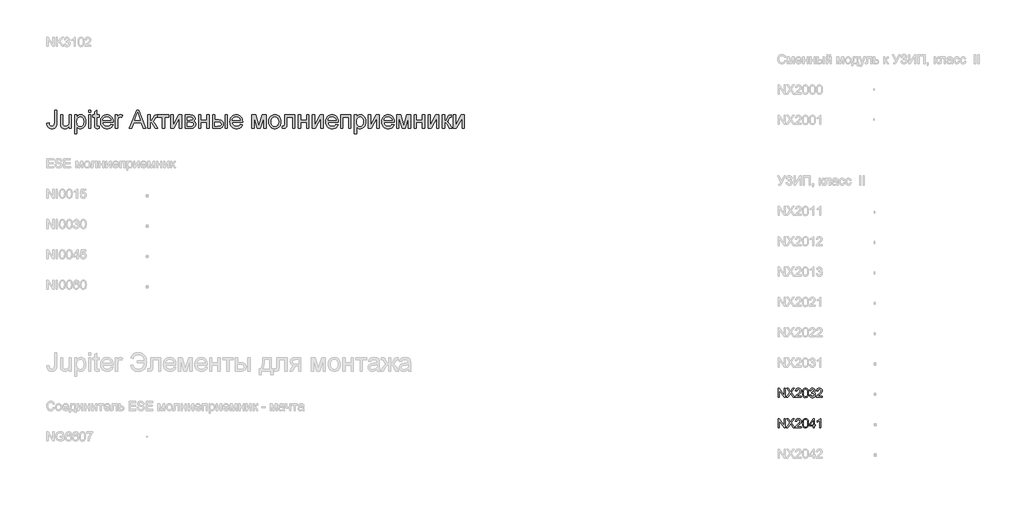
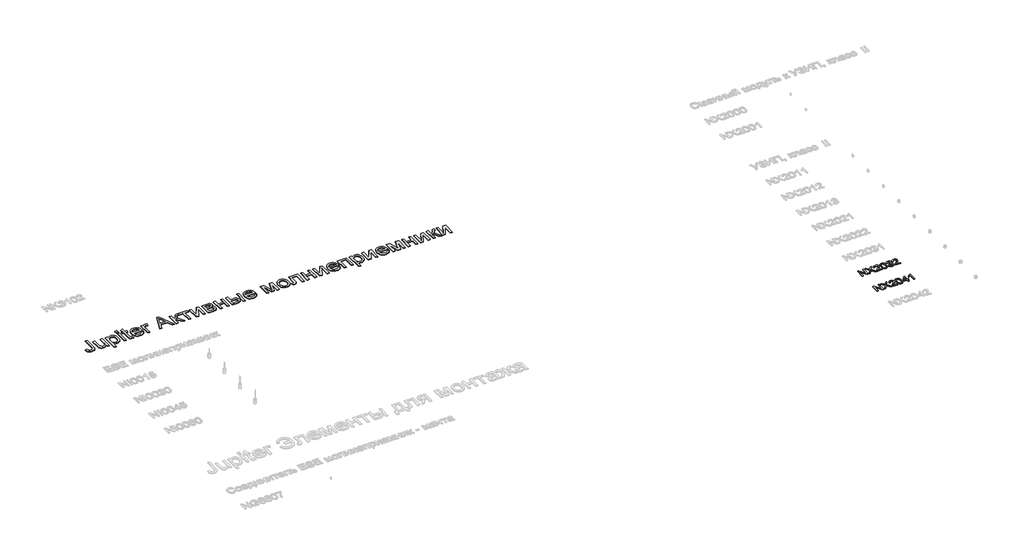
# One storey, part 25 of 124: 3 proxies.
"""IFC4 building model written with IfcOpenShell, lengths in millimetres."""

from ifc_helpers import new_model, si_unit, origin, origin_with_axes, place, context, project, spatial, polyline, outline, extrude, element, save

model = new_model("IFC4")

# Units and contexts
model_context = context("Model", 3, world=origin())
ifc_project = project(units=[si_unit("LENGTHUNIT", "METRE", prefix="MILLI")], contexts=[model_context])

# Site, building, storey
site = spatial("IfcSite", under=ifc_project)
building = spatial("IfcBuilding", under=site)
storey = spatial("IfcBuildingStorey", under=building, Name="Этаж 01", Elevation=0.0)

# Proxies
placement = place(None, origin())
element("IfcBuildingElementProxy", 1, Name="600 мм Arial", ObjectType="600 мм Arial", at=placement, inside=storey, context=model_context, shape_type="SweptSolid", body=[
    extrude(outline(polyline([(25395.1131782, -118079.6474361), (25470.4554108, -118069.9353514), (25473.1133582, -118099.8901429), (25478.2912973, -118124.7129805), (25485.989228, -118144.4038643), (25496.2071504, -118158.9627943), (25508.7887147, -118169.4566282), (25523.5775709, -118176.9522238), (25540.573719, -118181.4495812), (25559.7771592, -118182.9487003), (25587.6074321, -118179.5457919), (25611.3542149, -118169.3370665), (25629.6747383, -118153.2606233), (25641.2262329, -118132.2545614), (25647.3514681, -118101.8491145), (25649.3932132, -118057.5745164), (25649.3932132, -117646.135293), (25724.7354458, -117646.135293), (25724.7354458, -118056.2501412), (25720.1921032, -118123.333423), (25714.5129249, -118150.4601217), (25706.5620753, -118173.3101921), (25696.1418178, -118192.7941422), (25683.0544158, -118209.8224801), (25667.2998693, -118224.3952056), (25648.8781784, -118236.5123188), (25605.9647437, -118252.8462794), (25556.245492, -118258.290933), (25519.1170017, -118255.4812342), (25486.6054304, -118247.052138), (25458.7107781, -118233.0036443), (25435.4330448, -118213.3357532), (25417.1860979, -118188.1220409), (25404.3838044, -118157.436084), (25397.0261645, -118121.2778824), (25395.1131782, -118079.6474361)])), origin_with_axes(), (0.0, 0.0, 1.0), 20.0),
    extrude(outline(polyline([(26129.6999461, -118248.8731539), (26129.6999461, -118172.7951573), (26102.4398903, -118210.1995591), (26070.6916741, -118236.916989), (26034.4552976, -118252.947447), (25993.7307607, -118258.290933), (25957.0345317, -118254.5385366), (25922.8766884, -118243.2813476), (25894.218681, -118226.3587758), (25874.0219595, -118205.6102313), (25860.4287198, -118180.4103146), (25851.5811578, -118150.1336264), (25847.1665738, -118080.0888945), (25847.1665738, -117806.2375373), (25922.5088064, -117806.2375373), (25922.5088064, -118044.6250702), (25923.6492406, -118092.3025767), (25927.0705432, -118121.4388308), (25938.0518207, -118147.0618117), (25956.8689848, -118166.5411634), (25982.2712366, -118178.8468161), (26013.0077773, -118182.9487003), (26045.5101515, -118178.7548456), (26075.9155984, -118166.1732814), (26100.9867564, -118146.3628359), (26117.4862639, -118120.4823376), (26126.6465256, -118085.0369073), (26129.6999461, -118036.5316663), (26129.6999461, -117806.2375373), (26205.0421787, -117806.2375373), (26205.0421787, -118248.8731539), (26129.6999461, -118248.8731539)])), origin_with_axes(), (0.0, 0.0, 1.0), 20.0),
    extrude(outline(polyline([(26308.6377486, -118418.3931773), (26308.6377486, -117806.2375373), (26383.9799812, -117806.2375373), (26383.9799812, -117880.1082419), (26408.5544985, -117843.6695303), (26436.0720717, -117817.6418791), (26468.1513817, -117802.0252884), (26506.4111092, -117796.8197582), (26532.6870807, -117798.6407741), (26557.3627655, -117804.1038217), (26580.4381637, -117813.2089011), (26601.9132751, -117825.9560122), (26621.3190504, -117842.0140613), (26638.1864399, -117861.0519546), (26652.5154436, -117883.069692), (26664.3060615, -117908.0672736), (26680.0881991, -117963.5806666), (26685.3489116, -118024.1708312), (26679.4076174, -118088.6053627), (26671.9809996, -118118.2704471), (26661.5837348, -118146.2340772), (26648.358377, -118171.7650877), (26632.4474807, -118194.132313), (26613.8510459, -118213.3357532), (26592.5690725, -118229.3754081), (26569.6454256, -118242.0259503), (26546.1239706, -118251.0620518), (26522.0047073, -118256.4837127), (26497.2876357, -118258.290933), (26462.6515459, -118253.4532847), (26431.7310642, -118238.94034), (26405.2619546, -118217.0329672), (26383.9799812, -118190.0120347), (26383.9799812, -118418.3931773), (26308.6377486, -118418.3931773)]), holes=[polyline([(26383.9799812, -118031.0870127), (26386.0171277, -118067.3969657), (26392.1285674, -118098.6301471), (26402.3143001, -118124.7865569), (26416.574326, -118145.8661952), (26433.7406196, -118162.0897912), (26452.6451556, -118173.6780741), (26473.287934, -118180.6310438), (26495.6689549, -118182.9487003), (26518.3718726, -118180.5482703), (26539.3917301, -118173.3469803), (26558.7285274, -118161.3448302), (26576.3822647, -118144.5418201), (26591.092946, -118122.6988266), (26601.6005754, -118095.5767265), (26607.9051531, -118063.1755198), (26610.006679, -118025.4952064), (26607.9557369, -117989.4979532), (26601.8029105, -117958.3199541), (26591.5481999, -117931.9612091), (26577.1916051, -117910.4217183), (26559.9839247, -117893.6830875), (26541.1759577, -117881.7269227), (26520.767704, -117874.5532238), (26498.7591637, -117872.1619908), (26476.8196012, -117874.7049751), (26456.1768227, -117882.333928), (26436.8308283, -117895.0488494), (26418.7816179, -117912.8497395), (26403.5559019, -117935.4974748), (26392.6803904, -117962.7529321), (26386.1550835, -117994.6161114), (26383.9799812, -118031.0870127)])]), origin_with_axes(), (0.0, 0.0, 1.0), 20.0),
    extrude(outline(polyline([(26770.1089233, -117721.4775256), (26770.1089233, -117646.135293), (26845.4511559, -117646.135293), (26845.4511559, -117721.4775256), (26770.1089233, -117721.4775256)])), origin_with_axes(), (0.0, 0.0, 1.0), 20.0),
    extrude(outline(polyline([(26770.1089233, -118248.8731539), (26770.1089233, -117806.2375373), (26845.4511559, -117806.2375373), (26845.4511559, -118248.8731539), (26770.1089233, -118248.8731539)])), origin_with_axes(), (0.0, 0.0, 1.0), 20.0),
    extrude(outline(polyline([(27118.5667492, -118186.0389091), (27127.9845282, -118251.0804459), (27071.6250066, -118258.290933), (27035.4622064, -118255.163936), (27008.4964562, -118245.7829451), (26989.4401689, -118231.3251827), (26977.0057574, -118212.9678712), (26970.1631523, -118181.4403842), (26967.8822839, -118127.4720955), (26967.8822839, -117881.5797699), (26911.3756095, -117881.5797699), (26911.3756095, -117806.2375373), (26967.8822839, -117806.2375373), (26967.8822839, -117698.6688419), (27043.2245165, -117654.3758497), (27043.2245165, -117806.2375373), (27118.5667492, -117806.2375373), (27118.5667492, -117881.5797699), (27043.2245165, -117881.5797699), (27043.2245165, -118125.2648035), (27047.1976421, -118164.1131422), (27060.0735119, -118177.8719288), (27070.9444249, -118181.6795075), (27085.7516752, -118182.9487003), (27118.5667492, -118186.0389091)])), origin_with_axes(), (0.0, 0.0, 1.0), 20.0),
    extrude(outline(polyline([(27503.8127745, -118117.0242468), (27577.6834791, -118126.4420259), (27566.3573122, -118156.0289354), (27551.0672168, -118182.1025718), (27531.8131929, -118204.6629351), (27508.5952404, -118223.7100254), (27481.6524828, -118238.8391725), (27451.2240433, -118249.6457061), (27417.3099219, -118256.1296262), (27379.9101185, -118258.290933), (27333.161514, -118254.5615292), (27291.5080751, -118243.3733181), (27254.9498018, -118224.7262994), (27223.4866942, -118198.6204733), (27198.18561, -118165.7824068), (27180.113407, -118126.9386666), (27169.2700851, -118082.0892528), (27165.6556445, -118031.2341655), (27169.3068733, -117978.6546314), (27180.2605598, -117932.310697), (27198.5167038, -117892.2023625), (27224.0753054, -117858.3296278), (27255.4556396, -117831.4190599), (27291.1769813, -117812.1972256), (27331.2393306, -117800.6641251), (27375.6426874, -117796.8197582), (27418.615903, -117800.654928), (27457.4780372, -117812.1604374), (27492.2290902, -117831.3362864), (27522.8690619, -117858.182475), (27547.880439, -117891.9816333), (27565.7457084, -117932.0163914), (27576.46487, -117978.2867494), (27580.0379239, -118030.7927071), (27579.5964655, -118051.0997933), (27240.9978772, -118051.0997933), (27245.3618773, -118081.1649493), (27254.0392939, -118107.4961031), (27267.0301268, -118130.0932547), (27284.3343762, -118148.956404), (27304.9955487, -118163.8280337), (27328.0571513, -118174.4506263), (27353.5191839, -118180.8241818), (27381.3816465, -118182.9487003), (27421.480784, -118179.012363), (27455.2523511, -118167.203351), (27482.696348, -118146.7859002), (27503.8127745, -118117.0242468)]), holes=[polyline([(27240.9978772, -117975.7575607), (27504.6956913, -117975.7575607), (27494.50536, -117935.9527288), (27485.7405715, -117920.2993499), (27474.5293677, -117907.4786624), (27453.9831583, -117892.0276186), (27430.6042575, -117880.9911587), (27404.3926653, -117874.3692828), (27375.3483818, -117872.1619908), (27348.8562796, -117873.9232259), (27324.5622724, -117879.206931), (27302.46636, -117888.0131063), (27282.5685426, -117900.3417517), (27265.8712986, -117915.62265), (27253.3771063, -117933.2855843), (27245.0859658, -117953.3305545), (27240.9978772, -117975.7575607)])]), origin_with_axes(), (0.0, 0.0, 1.0), 20.0),
    extrude(outline(polyline([(27655.3801565, -118248.8731539), (27655.3801565, -117806.2375373), (27721.3046101, -117806.2375373), (27721.3046101, -117871.7205324), (27745.6583981, -117833.7551105), (27768.0991998, -117811.3878852), (27790.6135779, -117800.46179), (27815.1880952, -117796.8197582), (27852.7120587, -117802.6322937), (27890.8246334, -117820.0699003), (27865.661505, -117887.6130346), (27839.1740013, -117876.0247518), (27812.6864977, -117872.1619908), (27790.1905137, -117875.877599), (27770.0857626, -117887.0244234), (27753.8437725, -117904.7563356), (27742.9360714, -117928.2272069), (27733.7758097, -117970.3129071), (27730.7223891, -118016.2245801), (27730.7223891, -118248.8731539), (27655.3801565, -118248.8731539)])), origin_with_axes(), (0.0, 0.0, 1.0), 20.0),
    extrude(outline(polyline([(28112.5839001, -118248.8731539), (28353.178725, -117646.135293), (28417.3373449, -117646.135293), (28657.9321698, -118248.8731539), (28578.322506, -118248.8731539), (28509.3078437, -118060.5175724), (28261.0610734, -118060.5175724), (28192.1935639, -118248.8731539), (28112.5839001, -118248.8731539)]), holes=[polyline([(28288.7257994, -117985.1753397), (28481.7902705, -117985.1753397), (28427.490888, -117836.9924721), (28385.258035, -117721.4775256), (28347.7340714, -117824.0430259), (28288.7257994, -117985.1753397)])]), origin_with_axes(), (0.0, 0.0, 1.0), 20.0),
    extrude(outline(polyline([(28729.0069712, -117806.2375373), (28804.3492039, -117806.2375373), (28804.3492039, -117994.5931188), (28834.9937741, -117991.2086045), (28854.8226136, -117981.0550614), (28872.3705848, -117954.5675577), (28896.1725499, -117902.1811616), (28915.3575959, -117859.3413033), (28930.5327282, -117834.1229925), (28944.696185, -117820.3826), (28960.8462046, -117811.9764964), (28983.1950358, -117807.6722771), (29015.9549275, -117806.2375373), (29030.3759017, -117806.2375373), (29030.3759017, -117882.0212283), (29010.0688156, -117881.5797699), (28986.5243679, -117883.5663327), (28973.280616, -117889.526021), (28962.5384618, -117906.117499), (28947.3817236, -117939.1165139), (28931.4708273, -117972.1707112), (28916.9946708, -117992.7537088), (28899.4650937, -118006.4941014), (28874.3939357, -118019.0204833), (28898.2694772, -118029.6246818), (28921.9242895, -118048.3406783), (28945.3583726, -118075.1684728), (28968.5717265, -118110.1080653), (29049.2114598, -118248.8731539), (28963.5685314, -118248.8731539), (28884.5474788, -118113.0511213), (28863.2103231, -118076.9067152), (28844.8162233, -118055.5879536), (28826.2381826, -118045.1584991), (28804.3492039, -118041.6820142), (28804.3492039, -118248.8731539), (28729.0069712, -118248.8731539), (28729.0069712, -117806.2375373)])), origin_with_axes(), (0.0, 0.0, 1.0), 20.0),
    extrude(outline(polyline([(29058.6292389, -117806.2375373), (29416.5048438, -117806.2375373), (29416.5048438, -117881.5797699), (29275.2381577, -117881.5797699), (29275.2381577, -118248.8731539), (29199.8959251, -118248.8731539), (29199.8959251, -117881.5797699), (29058.6292389, -117881.5797699), (29058.6292389, -117806.2375373)])), origin_with_axes(), (0.0, 0.0, 1.0), 20.0),
    extrude(outline(polyline([(29482.4292974, -117806.2375373), (29557.77153, -117806.2375373), (29557.77153, -118143.8060561), (29742.88975, -117806.2375373), (29840.3049023, -117806.2375373), (29840.3049023, -118248.8731539), (29764.9626697, -118248.8731539), (29764.9626697, -117913.3647743), (29581.0216721, -118248.8731539), (29482.4292974, -118248.8731539), (29482.4292974, -117806.2375373)])), origin_with_axes(), (0.0, 0.0, 1.0), 20.0),
    extrude(outline(polyline([(29953.3182512, -117806.2375373), (30119.3066074, -117806.2375373), (30172.6678908, -117808.757529), (30210.320613, -117816.317504), (30238.0221273, -117830.5913254), (30261.5297868, -117853.2528563), (30277.5878358, -117882.7753864), (30282.9405189, -117917.6322054), (30279.7031573, -117945.7199958), (30269.9910726, -117969.9450251), (30253.7674767, -117990.4176582), (30230.9955812, -118007.2482595), (30258.8810364, -118022.9016383), (30281.6161437, -118048.0831609), (30296.7360937, -118080.8062644), (30301.776077, -118119.084386), (30297.5914193, -118149.9220942), (30289.0105718, -118176.5107654), (30276.0335344, -118198.8503996), (30258.6603072, -118216.9409967), (30236.863299, -118230.9113155), (30210.6149186, -118240.8901146), (30179.9151661, -118246.8773941), (30144.7640415, -118248.8731539), (29953.3182512, -118248.8731539), (29953.3182512, -117806.2375373)]), holes=[polyline([(30028.6604838, -117975.7575607), (30103.1197996, -117975.7575607), (30164.5560928, -117971.9315879), (30180.3750186, -117966.1926288), (30194.4281108, -117956.6276969), (30204.3057424, -117943.9725563), (30207.5982863, -117928.9629709), (30206.1543494, -117916.7216975), (30201.8225389, -117906.485381), (30194.6028548, -117898.2540213), (30184.495297, -117892.0276186), (30153.1885392, -117884.1917321), (30105.4742444, -117881.5797699), (30028.6604838, -117881.5797699), (30028.6604838, -117975.7575607)]), polyline([(30028.6604838, -118173.5309213), (30121.072441, -118173.5309213), (30171.4354861, -118170.1280128), (30203.0365495, -118159.9192875), (30212.8314076, -118151.8764673), (30219.9959095, -118141.3596408), (30226.4338444, -118112.9039685), (30223.214877, -118094.0500162), (30213.5579746, -118076.6308037), (30198.7323302, -118063.0007758), (30180.0071366, -118055.5143772), (30113.7148011, -118051.0997933), (30028.6604838, -118051.0997933), (30028.6604838, -118173.5309213)])]), origin_with_axes(), (0.0, 0.0, 1.0), 20.0),
    extrude(outline(polyline([(30395.9538678, -117806.2375373), (30471.2961004, -117806.2375373), (30471.2961004, -117975.7575607), (30669.069461, -117975.7575607), (30669.069461, -117806.2375373), (30744.4116936, -117806.2375373), (30744.4116936, -118248.8731539), (30669.069461, -118248.8731539), (30669.069461, -118051.0997933), (30471.2961004, -118051.0997933), (30471.2961004, -118248.8731539), (30395.9538678, -118248.8731539), (30395.9538678, -117806.2375373)])), origin_with_axes(), (0.0, 0.0, 1.0), 20.0),
    extrude(outline(polyline([(31271.8073219, -117806.2375373), (31347.1495545, -117806.2375373), (31347.1495545, -118248.8731539), (31271.8073219, -118248.8731539), (31271.8073219, -117806.2375373)])), origin_with_axes(), (0.0, 0.0, 1.0), 20.0),
    extrude(outline(polyline([(30857.4250425, -117806.2375373), (30932.7672752, -117806.2375373), (30932.7672752, -117966.3397816), (31025.9149963, -117966.3397816), (31068.7778473, -117968.6988249), (31106.425971, -117975.7759548), (31138.8593674, -117987.5711712), (31166.0780365, -118004.0844743), (31187.6129288, -118024.7456468), (31202.9949947, -118048.9844718), (31212.2242343, -118076.8009492), (31215.3006474, -118108.1950789), (31212.720875, -118136.2046943), (31204.9815575, -118162.1081853), (31192.082695, -118185.9055519), (31174.0242876, -118207.596794), (31150.3004974, -118225.6552015), (31120.4054868, -118238.5540639), (31084.3392557, -118246.2933814), (31042.1018041, -118248.8731539), (30857.4250425, -118248.8731539), (30857.4250425, -117806.2375373)]), holes=[polyline([(30932.7672752, -118173.5309213), (31010.1696469, -118173.5309213), (31070.1712004, -118169.5761898), (31092.6395932, -118164.6327755), (31110.0863968, -118157.7119955), (31123.1554047, -118148.6942881), (31132.4904103, -118137.4600916), (31138.0914137, -118124.0094062), (31139.9584148, -118108.3422317), (31134.4217908, -118083.7309263), (31117.8119187, -118061.9891003), (31103.395543, -118053.1047502), (31082.2929121, -118046.7587857), (31020.0288844, -118041.6820142), (30932.7672752, -118041.6820142), (30932.7672752, -118173.5309213)])]), origin_with_axes(), (0.0, 0.0, 1.0), 20.0),
    extrude(outline(polyline([(31770.0666962, -118117.0242468), (31843.9374008, -118126.4420259), (31832.6112339, -118156.0289354), (31817.3211385, -118182.1025718), (31798.0671145, -118204.6629351), (31774.8491621, -118223.7100254), (31747.9064045, -118238.8391725), (31717.477965, -118249.6457061), (31683.5638435, -118256.1296262), (31646.1640402, -118258.290933), (31599.4154357, -118254.5615292), (31557.7619968, -118243.3733181), (31521.2037235, -118224.7262994), (31489.7406159, -118198.6204733), (31464.4395316, -118165.7824068), (31446.3673286, -118126.9386666), (31435.5240068, -118082.0892528), (31431.9095662, -118031.2341655), (31435.560795, -117978.6546314), (31446.5144814, -117932.310697), (31464.7706254, -117892.2023625), (31490.329227, -117858.3296278), (31521.7095612, -117831.4190599), (31557.430903, -117812.1972256), (31597.4932522, -117800.6641251), (31641.8966091, -117796.8197582), (31684.8698246, -117800.654928), (31723.7319589, -117812.1604374), (31758.4830119, -117831.3362864), (31789.1229835, -117858.182475), (31814.1343607, -117891.9816333), (31831.9996301, -117932.0163914), (31842.7187917, -117978.2867494), (31846.2918456, -118030.7927071), (31845.8503872, -118051.0997933), (31507.2517988, -118051.0997933), (31511.615799, -118081.1649493), (31520.2932155, -118107.4961031), (31533.2840485, -118130.0932547), (31550.5882979, -118148.956404), (31571.2494704, -118163.8280337), (31594.311073, -118174.4506263), (31619.7731056, -118180.8241818), (31647.6355682, -118182.9487003), (31687.7347057, -118179.012363), (31721.5062728, -118167.203351), (31748.9502697, -118146.7859002), (31770.0666962, -118117.0242468)]), holes=[polyline([(31507.2517988, -117975.7575607), (31770.949613, -117975.7575607), (31760.7592817, -117935.9527288), (31751.9944932, -117920.2993499), (31740.7832894, -117907.4786624), (31720.2370799, -117892.0276186), (31696.8581791, -117880.9911587), (31670.646587, -117874.3692828), (31641.6023035, -117872.1619908), (31615.1102013, -117873.9232259), (31590.816194, -117879.206931), (31568.7202817, -117888.0131063), (31548.8224643, -117900.3417517), (31532.1252202, -117915.62265), (31519.631028, -117933.2855843), (31511.3398875, -117953.3305545), (31507.2517988, -117975.7575607)])]), origin_with_axes(), (0.0, 0.0, 1.0), 20.0),
    extrude(outline(polyline([(32157.0785551, -117806.2375373), (32286.7201702, -117806.2375373), (32386.6369201, -118160.581475), (32494.3527683, -117806.2375373), (32618.5497299, -117806.2375373), (32618.5497299, -118248.8731539), (32543.2074972, -118248.8731539), (32543.2074972, -117892.469077), (32434.9030379, -118248.8731539), (32336.0163576, -118248.8731539), (32232.4207877, -117875.3993524), (32232.4207877, -118248.8731539), (32157.0785551, -118248.8731539), (32157.0785551, -117806.2375373)])), origin_with_axes(), (0.0, 0.0, 1.0), 20.0),
    extrude(outline(polyline([(32712.7275206, -118027.5553456), (32716.8018137, -117970.2301337), (32729.024693, -117920.8327788), (32749.3961585, -117879.3632809), (32777.9162102, -117845.82164), (32806.6293999, -117824.3833167), (32838.3224338, -117809.0702287), (32872.9953118, -117799.8823758), (32910.648034, -117796.8197582), (32952.214101, -117800.5491619), (32989.7978453, -117811.7373731), (33023.399267, -117830.3843917), (33053.0183662, -117856.4902178), (33077.1928118, -117889.1719346), (33094.4602729, -117927.5466252), (33104.8207496, -117971.6142897), (33108.2742418, -118021.3749281), (33106.7475316, -118061.7039918), (33102.1674007, -118097.4897129), (33094.5338493, -118128.7320913), (33083.8468774, -118155.4311271), (33070.2398421, -118178.4927297), (33053.8461006, -118198.8228084), (33034.6656531, -118216.4213634), (33012.6984995, -118231.2883945), (32988.7999654, -118243.1020051), (32963.8253764, -118251.5402984), (32937.7747326, -118256.6032743), (32910.648034, -118258.290933), (32868.4749618, -118254.5753248), (32830.5417296, -118243.4285004), (32796.8483373, -118224.8504596), (32767.3947851, -118198.8412025), (32743.4778569, -118165.8421876), (32726.3943367, -118126.2948731), (32716.1442246, -118080.1992591), (32712.7275206, -118027.5553456)]), holes=[polyline([(32788.0697532, -118027.4081928), (32790.249454, -118063.9526705), (32796.7885565, -118095.5951206), (32807.6870606, -118122.3355431), (32822.9449664, -118144.1739381), (32841.504613, -118161.1378966), (32862.3083399, -118173.2550098), (32885.3561469, -118180.5252777), (32910.648034, -118182.9487003), (32935.8111625, -118180.5114821), (32958.766999, -118173.1998275), (32979.5155435, -118161.0137364), (32998.0567961, -118143.9532089), (33013.3147018, -118121.8986833), (33024.2132059, -118094.7305979), (33030.7523084, -118062.4489528), (33032.9320092, -118025.053748), (33030.7385128, -117989.6680986), (33024.1580236, -117958.853383), (33013.1905417, -117932.6096012), (32997.8360669, -117910.9367531), (32979.2258364, -117893.9727946), (32958.4910875, -117881.8556814), (32935.63182, -117874.5854135), (32910.648034, -117872.1619908), (32885.3561469, -117874.5762164), (32862.3083399, -117881.8188932), (32841.504613, -117893.8900212), (32822.9449664, -117910.7896003), (32807.6870606, -117932.5636159), (32796.7885565, -117959.2580532), (32790.249454, -117990.8729121), (32788.0697532, -118027.4081928)])]), origin_with_axes(), (0.0, 0.0, 1.0), 20.0),
    extrude(outline(polyline([(33230.7053698, -117806.2375373), (33569.7454166, -117806.2375373), (33569.7454166, -118248.4316955), (33494.403184, -118248.4316955), (33494.403184, -117881.5797699), (33306.0476024, -117881.5797699), (33306.0476024, -118092.7440351), (33304.7784096, -118154.0331755), (33300.9708309, -118190.1591875), (33291.4610813, -118212.2137131), (33273.0853757, -118231.2883945), (33245.1999204, -118244.476964), (33207.1609221, -118248.8731539), (33145.9453581, -118245.0471811), (33145.9453581, -118173.5309213), (33179.6433489, -118173.5309213), (33200.0791937, -118172.372093), (33213.7092216, -118168.8956081), (33222.2256898, -118162.8991316), (33227.3208555, -118154.1803283), (33230.7053698, -118088.476604), (33230.7053698, -117806.2375373)])), origin_with_axes(), (0.0, 0.0, 1.0), 20.0),
    extrude(outline(polyline([(33682.7587655, -117806.2375373), (33758.1009981, -117806.2375373), (33758.1009981, -117975.7575607), (33955.8743587, -117975.7575607), (33955.8743587, -117806.2375373), (34031.2165913, -117806.2375373), (34031.2165913, -118248.8731539), (33955.8743587, -118248.8731539), (33955.8743587, -118051.0997933), (33758.1009981, -118051.0997933), (33758.1009981, -118248.8731539), (33682.7587655, -118248.8731539), (33682.7587655, -117806.2375373)])), origin_with_axes(), (0.0, 0.0, 1.0), 20.0),
    extrude(outline(polyline([(34144.2299402, -117806.2375373), (34219.5721729, -117806.2375373), (34219.5721729, -118143.8060561), (34404.6903928, -117806.2375373), (34502.1055452, -117806.2375373), (34502.1055452, -118248.8731539), (34426.7633125, -118248.8731539), (34426.7633125, -117913.3647743), (34242.822315, -118248.8731539), (34144.2299402, -118248.8731539), (34144.2299402, -117806.2375373)])), origin_with_axes(), (0.0, 0.0, 1.0), 20.0),
    extrude(outline(polyline([(34925.0226868, -118117.0242468), (34998.8933914, -118126.4420259), (34987.5672245, -118156.0289354), (34972.2771291, -118182.1025718), (34953.0231052, -118204.6629351), (34929.8051527, -118223.7100254), (34902.8623951, -118238.8391725), (34872.4339556, -118249.6457061), (34838.5198342, -118256.1296262), (34801.1200308, -118258.290933), (34754.3714263, -118254.5615292), (34712.7179874, -118243.3733181), (34676.1597141, -118224.7262994), (34644.6966065, -118198.6204733), (34619.3955223, -118165.7824068), (34601.3233193, -118126.9386666), (34590.4799974, -118082.0892528), (34586.8655568, -118031.2341655), (34590.5167856, -117978.6546314), (34601.4704721, -117932.310697), (34619.7266161, -117892.2023625), (34645.2852177, -117858.3296278), (34676.6655519, -117831.4190599), (34712.3868936, -117812.1972256), (34752.4492429, -117800.6641251), (34796.8525997, -117796.8197582), (34839.8258153, -117800.654928), (34878.6879495, -117812.1604374), (34913.4390025, -117831.3362864), (34944.0789742, -117858.182475), (34969.0903513, -117891.9816333), (34986.9556207, -117932.0163914), (34997.6747823, -117978.2867494), (35001.2478362, -118030.7927071), (35000.8063778, -118051.0997933), (34662.2077895, -118051.0997933), (34666.5717896, -118081.1649493), (34675.2492062, -118107.4961031), (34688.2400391, -118130.0932547), (34705.5442885, -118148.956404), (34726.205461, -118163.8280337), (34749.2670636, -118174.4506263), (34774.7290962, -118180.8241818), (34802.5915588, -118182.9487003), (34842.6906963, -118179.012363), (34876.4622634, -118167.203351), (34903.9062603, -118146.7859002), (34925.0226868, -118117.0242468)]), holes=[polyline([(34662.2077895, -117975.7575607), (34925.9056036, -117975.7575607), (34915.7152723, -117935.9527288), (34906.9504838, -117920.2993499), (34895.73928, -117907.4786624), (34875.1930706, -117892.0276186), (34851.8141698, -117880.9911587), (34825.6025776, -117874.3692828), (34796.5582941, -117872.1619908), (34770.0661919, -117873.9232259), (34745.7721847, -117879.206931), (34723.6762723, -117888.0131063), (34703.7784549, -117900.3417517), (34687.0812109, -117915.62265), (34674.5870186, -117933.2855843), (34666.2958781, -117953.3305545), (34662.2077895, -117975.7575607)])]), origin_with_axes(), (0.0, 0.0, 1.0), 20.0),
    extrude(outline(polyline([(35076.5900688, -117806.2375373), (35415.6301156, -117806.2375373), (35415.6301156, -118248.8731539), (35340.287883, -118248.8731539), (35340.287883, -117881.5797699), (35151.9323014, -117881.5797699), (35151.9323014, -118248.8731539), (35076.5900688, -118248.8731539), (35076.5900688, -117806.2375373)])), origin_with_axes(), (0.0, 0.0, 1.0), 20.0),
    extrude(outline(polyline([(35528.6434645, -118418.3931773), (35528.6434645, -117806.2375373), (35603.9856971, -117806.2375373), (35603.9856971, -117880.1082419), (35628.5602144, -117843.6695303), (35656.0777876, -117817.6418791), (35688.1570976, -117802.0252884), (35726.4168251, -117796.8197582), (35752.6927966, -117798.6407741), (35777.3684814, -117804.1038217), (35800.4438796, -117813.2089011), (35821.9189911, -117825.9560122), (35841.3247663, -117842.0140613), (35858.1921558, -117861.0519546), (35872.5211595, -117883.069692), (35884.3117774, -117908.0672736), (35900.093915, -117963.5806666), (35905.3546276, -118024.1708312), (35899.4133333, -118088.6053627), (35891.9867156, -118118.2704471), (35881.5894507, -118146.2340772), (35868.3640929, -118171.7650877), (35852.4531967, -118194.132313), (35833.8567618, -118213.3357532), (35812.5747884, -118229.3754081), (35789.6511416, -118242.0259503), (35766.1296865, -118251.0620518), (35742.0104232, -118256.4837127), (35717.2933516, -118258.290933), (35682.6572618, -118253.4532847), (35651.7367801, -118238.94034), (35625.2676705, -118217.0329672), (35603.9856971, -118190.0120347), (35603.9856971, -118418.3931773), (35528.6434645, -118418.3931773)]), holes=[polyline([(35603.9856971, -118031.0870127), (35606.0228437, -118067.3969657), (35612.1342833, -118098.6301471), (35622.320016, -118124.7865569), (35636.5800419, -118145.8661952), (35653.7463355, -118162.0897912), (35672.6508715, -118173.6780741), (35693.29365, -118180.6310438), (35715.6746708, -118182.9487003), (35738.3775885, -118180.5482703), (35759.397446, -118173.3469803), (35778.7342433, -118161.3448302), (35796.3879806, -118144.5418201), (35811.0986619, -118122.6988266), (35821.6062914, -118095.5767265), (35827.910869, -118063.1755198), (35830.0123949, -118025.4952064), (35827.9614528, -117989.4979532), (35821.8086265, -117958.3199541), (35811.5539158, -117931.9612091), (35797.197321, -117910.4217183), (35779.9896407, -117893.6830875), (35761.1816736, -117881.7269227), (35740.77342, -117874.5532238), (35718.7648796, -117872.1619908), (35696.8253171, -117874.7049751), (35676.1825387, -117882.333928), (35656.8365442, -117895.0488494), (35638.7873339, -117912.8497395), (35623.5616178, -117935.4974748), (35612.6861063, -117962.7529321), (35606.1607994, -117994.6161114), (35603.9856971, -118031.0870127)])]), origin_with_axes(), (0.0, 0.0, 1.0), 20.0),
    extrude(outline(polyline([(35990.1146392, -117806.2375373), (36065.4568719, -117806.2375373), (36065.4568719, -118143.8060561), (36250.5750918, -117806.2375373), (36347.9902442, -117806.2375373), (36347.9902442, -118248.8731539), (36272.6480115, -118248.8731539), (36272.6480115, -117913.3647743), (36088.707014, -118248.8731539), (35990.1146392, -118248.8731539), (35990.1146392, -117806.2375373)])), origin_with_axes(), (0.0, 0.0, 1.0), 20.0),
    extrude(outline(polyline([(36770.9073858, -118117.0242468), (36844.7780904, -118126.4420259), (36833.4519235, -118156.0289354), (36818.1618281, -118182.1025718), (36798.9078042, -118204.6629351), (36775.6898517, -118223.7100254), (36748.7470941, -118238.8391725), (36718.3186546, -118249.6457061), (36684.4045332, -118256.1296262), (36647.0047298, -118258.290933), (36600.2561253, -118254.5615292), (36558.6026864, -118243.3733181), (36522.0444131, -118224.7262994), (36490.5813055, -118198.6204733), (36465.2802213, -118165.7824068), (36447.2080183, -118126.9386666), (36436.3646964, -118082.0892528), (36432.7502558, -118031.2341655), (36436.4014846, -117978.6546314), (36447.3551711, -117932.310697), (36465.6113151, -117892.2023625), (36491.1699167, -117858.3296278), (36522.5502509, -117831.4190599), (36558.2715926, -117812.1972256), (36598.3339419, -117800.6641251), (36642.7372987, -117796.8197582), (36685.7105143, -117800.654928), (36724.5726485, -117812.1604374), (36759.3237015, -117831.3362864), (36789.9636732, -117858.182475), (36814.9750503, -117891.9816333), (36832.8403197, -117932.0163914), (36843.5594813, -117978.2867494), (36847.1325352, -118030.7927071), (36846.6910768, -118051.0997933), (36508.0924885, -118051.0997933), (36512.4564886, -118081.1649493), (36521.1339052, -118107.4961031), (36534.1247381, -118130.0932547), (36551.4289875, -118148.956404), (36572.09016, -118163.8280337), (36595.1517626, -118174.4506263), (36620.6137952, -118180.8241818), (36648.4762578, -118182.9487003), (36688.5753953, -118179.012363), (36722.3469624, -118167.203351), (36749.7909593, -118146.7859002), (36770.9073858, -118117.0242468)]), holes=[polyline([(36508.0924885, -117975.7575607), (36771.7903026, -117975.7575607), (36761.5999713, -117935.9527288), (36752.8351828, -117920.2993499), (36741.623979, -117907.4786624), (36721.0777696, -117892.0276186), (36697.6988688, -117880.9911587), (36671.4872766, -117874.3692828), (36642.4429931, -117872.1619908), (36615.9508909, -117873.9232259), (36591.6568837, -117879.206931), (36569.5609713, -117888.0131063), (36549.6631539, -117900.3417517), (36532.9659099, -117915.62265), (36520.4717176, -117933.2855843), (36512.1805771, -117953.3305545), (36508.0924885, -117975.7575607)])]), origin_with_axes(), (0.0, 0.0, 1.0), 20.0),
    extrude(outline(polyline([(36922.4747678, -117806.2375373), (37052.1163829, -117806.2375373), (37152.0331328, -118160.581475), (37259.748981, -117806.2375373), (37383.9459426, -117806.2375373), (37383.9459426, -118248.8731539), (37308.60371, -118248.8731539), (37308.60371, -117892.469077), (37200.2992506, -118248.8731539), (37101.4125703, -118248.8731539), (36997.8170004, -117875.3993524), (36997.8170004, -118248.8731539), (36922.4747678, -118248.8731539), (36922.4747678, -117806.2375373)])), origin_with_axes(), (0.0, 0.0, 1.0), 20.0),
    extrude(outline(polyline([(37496.9592915, -117806.2375373), (37572.3015241, -117806.2375373), (37572.3015241, -117975.7575607), (37770.0748847, -117975.7575607), (37770.0748847, -117806.2375373), (37845.4171173, -117806.2375373), (37845.4171173, -118248.8731539), (37770.0748847, -118248.8731539), (37770.0748847, -118051.0997933), (37572.3015241, -118051.0997933), (37572.3015241, -118248.8731539), (37496.9592915, -118248.8731539), (37496.9592915, -117806.2375373)])), origin_with_axes(), (0.0, 0.0, 1.0), 20.0),
    extrude(outline(polyline([(37958.4304662, -117806.2375373), (38033.7726989, -117806.2375373), (38033.7726989, -118143.8060561), (38218.8909188, -117806.2375373), (38316.3060711, -117806.2375373), (38316.3060711, -118248.8731539), (38240.9638385, -118248.8731539), (38240.9638385, -117913.3647743), (38057.0228409, -118248.8731539), (37958.4304662, -118248.8731539), (37958.4304662, -117806.2375373)])), origin_with_axes(), (0.0, 0.0, 1.0), 20.0),
    extrude(outline(polyline([(38429.3194201, -117806.2375373), (38504.6616527, -117806.2375373), (38504.6616527, -117994.5931188), (38535.3062229, -117991.2086045), (38555.1350624, -117981.0550614), (38572.6830336, -117954.5675577), (38596.4849987, -117902.1811616), (38615.6700447, -117859.3413033), (38630.845177, -117834.1229925), (38645.0086338, -117820.3826), (38661.1586534, -117811.9764964), (38683.5074846, -117807.6722771), (38716.2673763, -117806.2375373), (38730.6883505, -117806.2375373), (38730.6883505, -117882.0212283), (38710.3812644, -117881.5797699), (38686.8368167, -117883.5663327), (38673.5930649, -117889.526021), (38662.8509106, -117906.117499), (38647.6941724, -117939.1165139), (38631.7832761, -117972.1707112), (38617.3071196, -117992.7537088), (38599.7775425, -118006.4941014), (38574.7063846, -118019.0204833), (38598.581926, -118029.6246818), (38622.2367383, -118048.3406783), (38645.6708214, -118075.1684728), (38668.8841753, -118110.1080653), (38749.5239087, -118248.8731539), (38663.8809802, -118248.8731539), (38584.8599276, -118113.0511213), (38563.5227719, -118076.9067152), (38545.1286721, -118055.5879536), (38526.5506314, -118045.1584991), (38504.6616527, -118041.6820142), (38504.6616527, -118248.8731539), (38429.3194201, -118248.8731539), (38429.3194201, -117806.2375373)])), origin_with_axes(), (0.0, 0.0, 1.0), 20.0),
    extrude(outline(polyline([(38796.6128041, -117806.2375373), (38871.9550367, -117806.2375373), (38871.9550367, -118143.8060561), (39057.0732566, -117806.2375373), (39154.488409, -117806.2375373), (39154.488409, -118248.8731539), (39079.1461763, -118248.8731539), (39079.1461763, -117913.3647743), (38895.2051788, -118248.8731539), (38796.6128041, -118248.8731539), (38796.6128041, -117806.2375373)])), origin_with_axes(), (0.0, 0.0, 1.0), 20.0),
])
element("IfcBuildingElementProxy", 2, Name="300", ObjectType="300", at=placement, inside=storey, context=model_context, shape_type="SweptSolid", body=[
    extrude(outline(polyline([(49499.8220677, -127116.6913893), (49499.8220677, -126815.3224589), (49540.1419344, -126815.3224589), (49697.5954283, -127054.0778737), (49697.5954283, -126815.3224589), (49735.2665446, -126815.3224589), (49735.2665446, -127116.6913893), (49694.9466779, -127116.6913893), (49537.493184, -126877.862398), (49537.493184, -127116.6913893), (49499.8220677, -127116.6913893)])), origin_with_axes(), (0.0, 0.0, 1.0), 20.0),
    extrude(outline(polyline([(49768.2287714, -127116.6913893), (49884.4059055, -126952.4688667), (49787.0643295, -126815.3224589), (49832.2402385, -126815.3224589), (49887.0546558, -126892.5041014), (49905.522332, -126922.5968486), (49927.1537933, -126891.9890666), (49981.3795994, -126815.3224589), (50027.217696, -126815.3224589), (49929.8761201, -126952.910325), (50046.0532541, -127116.6913893), (50000.8773451, -127116.6913893), (49923.4749733, -127007.5040131), (49907.361742, -126984.8424822), (49889.6298298, -127009.7113051), (49814.066868, -127116.6913893), (49768.2287714, -127116.6913893)])), origin_with_axes(), (0.0, 0.0, 1.0), 20.0),
    extrude(outline(polyline([(50262.6621729, -127079.020273), (50262.6621729, -127116.6913893), (50064.8888123, -127116.6913893), (50068.9355142, -127090.7189204), (50078.2245346, -127070.4210314), (50091.8177743, -127050.7301476), (50111.481067, -127030.1195588), (50138.9802461, -127007.0625547), (50179.6312066, -126970.9549369), (50204.0217829, -126944.3018864), (50216.217071, -126922.670425), (50220.282167, -126901.6275749), (50216.4469972, -126882.7644256), (50204.9414878, -126867.0834556), (50187.2555609, -126856.5160453), (50164.8791386, -126852.9935752), (50141.3806761, -126856.4332718), (50123.1245321, -126866.7523618), (50111.3431112, -126883.1415047), (50107.2688181, -126904.7913601), (50069.5977018, -126900.0824705), (50078.7303724, -126863.6437589), (50087.276731, -126849.1078216), (50098.4764384, -126837.0274966), (50112.0719774, -126827.5315426), (50127.8058305, -126820.7487183), (50165.688479, -126815.3224589), (50185.8783027, -126816.830775), (50203.8470389, -126821.3557236), (50219.5946876, -126828.8973045), (50233.1212487, -126839.4555177), (50243.9852638, -126852.2486141), (50251.7452747, -126866.4948444), (50256.4012812, -126882.1942085), (50257.9532834, -126899.3467065), (50256.2794203, -126917.3637273), (50251.257831, -126935.0680483), (50242.3458897, -126953.0758719), (50229.0009703, -126972.0034006), (50207.728194, -126994.6005522), (50175.0326816, -127023.6172445), (50131.6961826, -127059.853621), (50114.7000344, -127079.020273), (50262.6621729, -127079.020273)])), origin_with_axes(), (0.0, 0.0, 1.0), 20.0),
    extrude(outline(polyline([(50300.3332892, -126968.4349452), (50303.1016012, -126920.1964186), (50311.4065373, -126881.725159), (50325.1653239, -126852.4325551), (50344.2951876, -126831.7299958), (50368.9340842, -126819.4243431), (50399.2199695, -126815.3224589), (50422.4333234, -126817.75048), (50443.2186561, -126825.0345435), (50460.6010804, -126836.8895408), (50473.6057089, -126853.0303634), (50483.4281582, -126873.3190554), (50491.2640447, -126897.6176612), (50496.3959985, -126928.4737635), (50498.1066498, -126968.4349452), (50495.3659289, -127016.3975604), (50487.1437663, -127054.7768495), (50473.4677532, -127084.0970445), (50454.3654806, -127104.8823773), (50429.6714017, -127117.2708034), (50399.2199695, -127121.4002788), (50378.471425, -127119.6068541), (50360.0773252, -127114.2265799), (50344.0376702, -127105.2594563), (50330.35246, -127092.7054832), (50317.2190728, -127070.0117626), (50307.8380819, -127041.7354328), (50302.2094874, -127007.8764937), (50300.3332892, -126968.4349452)]), holes=[polyline([(50338.0044055, -126968.3613688), (50342.4189894, -127027.6179612), (50347.9372194, -127047.8859599), (50355.6627413, -127061.9137602), (50375.3812162, -127078.275312), (50399.2199695, -127083.7291625), (50423.0587228, -127078.2569179), (50442.7771977, -127061.8401838), (50450.5027196, -127047.7893909), (50456.0209496, -127027.5259907), (50460.4355335, -126968.3613688), (50456.1681024, -126910.4383487), (50450.8338134, -126890.2370286), (50443.3658089, -126875.8758353), (50423.6841222, -126858.7141402), (50398.7785111, -126852.9935752), (50375.1972752, -126858.0335585), (50356.2513525, -126873.1535085), (50348.2683132, -126888.7884933), (50342.5661422, -126909.8681316), (50338.0044055, -126968.3613688)])]), origin_with_axes(), (0.0, 0.0, 1.0), 20.0),
    extrude(outline(polyline([(50531.0688766, -127036.6402671), (50568.7399929, -127031.9313776), (50577.1736876, -127055.604584), (50589.5253256, -127071.5890567), (50606.4019121, -127080.6941361), (50628.4104525, -127083.7291625), (50654.2357686, -127079.5537019), (50674.1749727, -127067.02732), (50686.9220838, -127048.3389146), (50691.1711209, -127025.6773837), (50686.958872, -127004.165484), (50674.3221255, -126986.7186804), (50655.1922617, -126975.1579887), (50631.5006613, -126971.3044248), (50605.086734, -126975.4247032), (50609.2805887, -126937.7535868), (50615.3138535, -126938.1950452), (50637.8834139, -126935.4911126), (50658.0617413, -126927.3793146), (50672.2987745, -126913.6573162), (50677.0444523, -126894.1227822), (50673.6047556, -126877.853201), (50663.2856656, -126864.6554344), (50647.5403162, -126855.90904), (50627.8218413, -126852.9935752), (50608.0665782, -126855.9366311), (50591.9165586, -126864.765799), (50580.1259406, -126879.4810788), (50573.4488824, -126900.0824705), (50535.7777661, -126895.373581), (50546.8694083, -126861.5468315), (50566.6062773, -126836.2917326), (50593.6088158, -126820.5647773), (50626.4974661, -126815.3224589), (50650.1798696, -126817.9068299), (50671.9308925, -126825.6599429), (50690.26981, -126837.8920193), (50703.7158969, -126853.9132801), (50711.9656507, -126872.3717593), (50714.7155686, -126891.9154902), (50712.1036064, -126910.125649), (50704.2677199, -126926.6435506), (50691.3182737, -126940.7150369), (50673.3656323, -126951.5859499), (50696.9468682, -126961.1140935), (50714.421263, -126977.3376895), (50725.2369936, -126999.373821), (50728.8422372, -127026.3395713), (50727.0396154, -127045.4510409), (50721.6317501, -127063.0541944), (50712.6186412, -127079.1490317), (50700.0002888, -127093.7355528), (50684.6274199, -127105.8388704), (50667.3507617, -127114.4840973), (50648.1703142, -127119.6712335), (50627.0860773, -127121.4002788), (50608.02979, -127119.9241523), (50590.6657598, -127115.4957728), (50574.9939868, -127108.1151403), (50561.014471, -127097.7822547), (50549.2928309, -127085.1041215), (50540.3946852, -127070.6877458), (50534.3200337, -127054.5331277), (50531.0688766, -127036.6402671)])), origin_with_axes(), (0.0, 0.0, 1.0), 20.0),
    extrude(outline(polyline([(50954.868935, -127079.020273), (50954.868935, -127116.6913893), (50757.0955744, -127116.6913893), (50761.1422764, -127090.7189204), (50770.4312967, -127070.4210314), (50784.0245365, -127050.7301476), (50803.6878291, -127030.1195588), (50831.1870082, -127007.0625547), (50871.8379687, -126970.9549369), (50896.228545, -126944.3018864), (50908.4238331, -126922.670425), (50912.4889292, -126901.6275749), (50908.6537594, -126882.7644256), (50897.14825, -126867.0834556), (50879.4623231, -126856.5160453), (50857.0859007, -126852.9935752), (50833.5874383, -126856.4332718), (50815.3312942, -126866.7523618), (50803.5498734, -126883.1415047), (50799.4755803, -126904.7913601), (50761.8044639, -126900.0824705), (50770.9371345, -126863.6437589), (50779.4834931, -126849.1078216), (50790.6832006, -126837.0274966), (50804.2787396, -126827.5315426), (50820.0125926, -126820.7487183), (50857.8952411, -126815.3224589), (50878.0850648, -126816.830775), (50896.053801, -126821.3557236), (50911.8014497, -126828.8973045), (50925.3280108, -126839.4555177), (50936.192026, -126852.2486141), (50943.9520368, -126866.4948444), (50948.6080433, -126882.1942085), (50950.1600455, -126899.3467065), (50948.4861824, -126917.3637273), (50943.4645932, -126935.0680483), (50934.5526518, -126953.0758719), (50921.2077325, -126972.0034006), (50899.9349561, -126994.6005522), (50867.2394438, -127023.6172445), (50823.9029447, -127059.853621), (50806.9067966, -127079.020273), (50954.868935, -127079.020273)])), origin_with_axes(), (0.0, 0.0, 1.0), 20.0),
])
element("IfcBuildingElementProxy", 3, Name="300", ObjectType="300", at=placement, inside=storey, context=model_context, shape_type="SweptSolid", body=[
    extrude(outline(polyline([(49499.8220677, -128116.6913893), (49499.8220677, -127815.3224589), (49540.1419344, -127815.3224589), (49697.5954283, -128054.0778737), (49697.5954283, -127815.3224589), (49735.2665446, -127815.3224589), (49735.2665446, -128116.6913893), (49694.9466779, -128116.6913893), (49537.493184, -127877.862398), (49537.493184, -128116.6913893), (49499.8220677, -128116.6913893)])), origin_with_axes(), (0.0, 0.0, 1.0), 20.0),
    extrude(outline(polyline([(49768.2287714, -128116.6913893), (49884.4059055, -127952.4688667), (49787.0643295, -127815.3224589), (49832.2402385, -127815.3224589), (49887.0546558, -127892.5041014), (49905.522332, -127922.5968486), (49927.1537933, -127891.9890666), (49981.3795994, -127815.3224589), (50027.217696, -127815.3224589), (49929.8761201, -127952.910325), (50046.0532541, -128116.6913893), (50000.8773451, -128116.6913893), (49923.4749733, -128007.5040131), (49907.361742, -127984.8424822), (49889.6298298, -128009.7113051), (49814.066868, -128116.6913893), (49768.2287714, -128116.6913893)])), origin_with_axes(), (0.0, 0.0, 1.0), 20.0),
    extrude(outline(polyline([(50262.6621729, -128079.020273), (50262.6621729, -128116.6913893), (50064.8888123, -128116.6913893), (50068.9355142, -128090.7189204), (50078.2245346, -128070.4210314), (50091.8177743, -128050.7301476), (50111.481067, -128030.1195588), (50138.9802461, -128007.0625547), (50179.6312066, -127970.9549369), (50204.0217829, -127944.3018864), (50216.217071, -127922.670425), (50220.282167, -127901.6275749), (50216.4469972, -127882.7644256), (50204.9414878, -127867.0834556), (50187.2555609, -127856.5160453), (50164.8791386, -127852.9935752), (50141.3806761, -127856.4332718), (50123.1245321, -127866.7523618), (50111.3431112, -127883.1415047), (50107.2688181, -127904.7913601), (50069.5977018, -127900.0824705), (50078.7303724, -127863.6437589), (50087.276731, -127849.1078216), (50098.4764384, -127837.0274966), (50112.0719774, -127827.5315426), (50127.8058305, -127820.7487183), (50165.688479, -127815.3224589), (50185.8783027, -127816.830775), (50203.8470389, -127821.3557236), (50219.5946876, -127828.8973045), (50233.1212487, -127839.4555177), (50243.9852638, -127852.2486141), (50251.7452747, -127866.4948444), (50256.4012812, -127882.1942085), (50257.9532834, -127899.3467065), (50256.2794203, -127917.3637273), (50251.257831, -127935.0680483), (50242.3458897, -127953.0758719), (50229.0009703, -127972.0034006), (50207.728194, -127994.6005522), (50175.0326816, -128023.6172445), (50131.6961826, -128059.853621), (50114.7000344, -128079.020273), (50262.6621729, -128079.020273)])), origin_with_axes(), (0.0, 0.0, 1.0), 20.0),
    extrude(outline(polyline([(50300.3332892, -127968.4349452), (50303.1016012, -127920.1964186), (50311.4065373, -127881.725159), (50325.1653239, -127852.4325551), (50344.2951876, -127831.7299958), (50368.9340842, -127819.4243431), (50399.2199695, -127815.3224589), (50422.4333234, -127817.75048), (50443.2186561, -127825.0345435), (50460.6010804, -127836.8895408), (50473.6057089, -127853.0303634), (50483.4281582, -127873.3190554), (50491.2640447, -127897.6176612), (50496.3959985, -127928.4737635), (50498.1066498, -127968.4349452), (50495.3659289, -128016.3975604), (50487.1437663, -128054.7768495), (50473.4677532, -128084.0970445), (50454.3654806, -128104.8823773), (50429.6714017, -128117.2708034), (50399.2199695, -128121.4002788), (50378.471425, -128119.6068541), (50360.0773252, -128114.2265799), (50344.0376702, -128105.2594563), (50330.35246, -128092.7054832), (50317.2190728, -128070.0117626), (50307.8380819, -128041.7354328), (50302.2094874, -128007.8764937), (50300.3332892, -127968.4349452)]), holes=[polyline([(50338.0044055, -127968.3613688), (50342.4189894, -128027.6179612), (50347.9372194, -128047.8859599), (50355.6627413, -128061.9137602), (50375.3812162, -128078.275312), (50399.2199695, -128083.7291625), (50423.0587228, -128078.2569179), (50442.7771977, -128061.8401838), (50450.5027196, -128047.7893909), (50456.0209496, -128027.5259907), (50460.4355335, -127968.3613688), (50456.1681024, -127910.4383487), (50450.8338134, -127890.2370286), (50443.3658089, -127875.8758353), (50423.6841222, -127858.7141402), (50398.7785111, -127852.9935752), (50375.1972752, -127858.0335585), (50356.2513525, -127873.1535085), (50348.2683132, -127888.7884933), (50342.5661422, -127909.8681316), (50338.0044055, -127968.3613688)])]), origin_with_axes(), (0.0, 0.0, 1.0), 20.0),
    extrude(outline(polyline([(50653.5000046, -128116.6913893), (50653.5000046, -128046.0580462), (50516.942208, -128046.0580462), (50516.942208, -128008.3869299), (50662.9177836, -127820.0313484), (50691.1711209, -127820.0313484), (50691.1711209, -128008.3869299), (50728.8422372, -128008.3869299), (50728.8422372, -128046.0580462), (50691.1711209, -128046.0580462), (50691.1711209, -128116.6913893), (50653.5000046, -128116.6913893)]), holes=[polyline([(50653.5000046, -128008.3869299), (50653.5000046, -127891.9890666), (50563.2953394, -128008.3869299), (50653.5000046, -128008.3869299)])]), origin_with_axes(), (0.0, 0.0, 1.0), 20.0),
    extrude(outline(polyline([(50903.0711501, -128116.6913893), (50865.4000338, -128116.6913893), (50865.4000338, -127881.8355236), (50829.7154803, -127907.2561694), (50790.0578012, -127926.2756686), (50790.0578012, -127890.6646915), (50819.6447106, -127874.5698542), (50845.2768887, -127855.4215963), (50865.4828072, -127835.0593279), (50878.7909384, -127815.3224589), (50903.0711501, -127815.3224589), (50903.0711501, -128116.6913893)])), origin_with_axes(), (0.0, 0.0, 1.0), 20.0),
])

save(model, "model.ifc")
